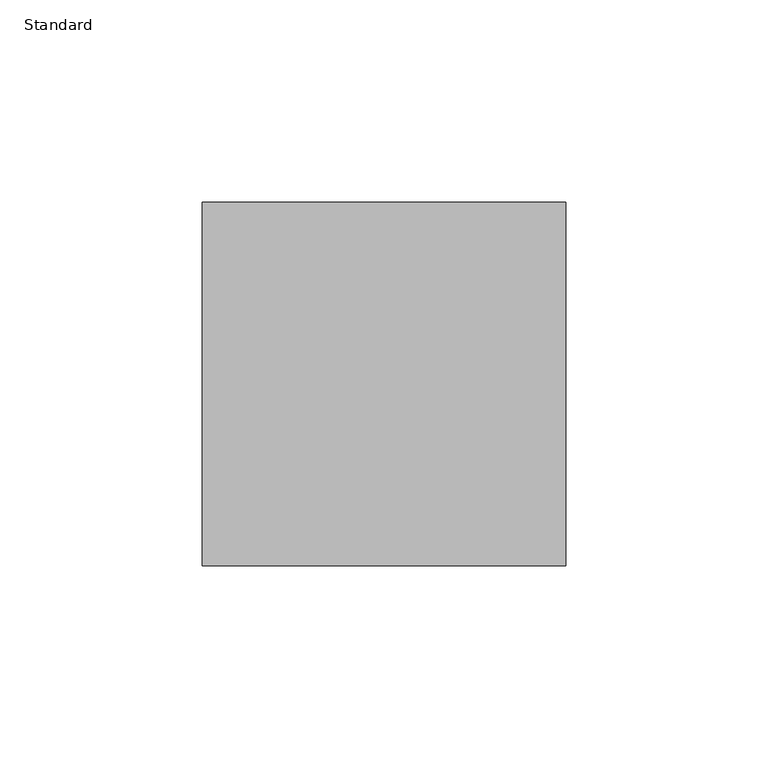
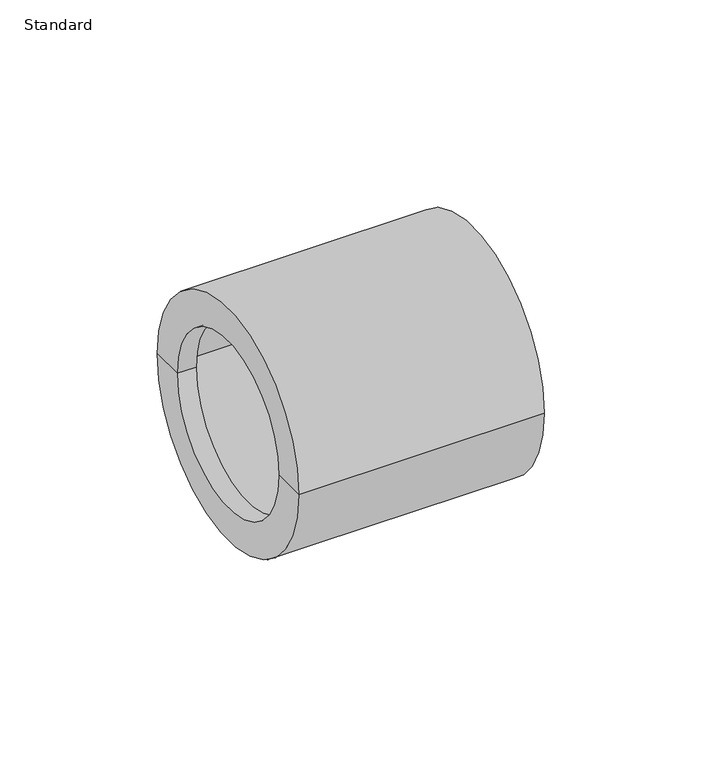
"""IFC4 building model written with IfcOpenShell, lengths in millimetres: pipe fitting geometry, Durapipe_PipeFitting_PVC_ReducingBush : Standard."""

from ifc_helpers import new_model, si_unit, frame, origin, place, context, project, spatial, polyline, circle_curve, source, transform, mapped, element, save
from ifc_brep_helpers import plane_surface, cylinder_surface, revolved_surface, advanced_brep


def standard_898c3797(model_context):
    return source(origin(), model_context, "Body", "AdvancedBrep", [
        advanced_brep(
        [(-7.0, -32.5, 0.0), (-7.0, 32.5, 0.0), (-7.0, 45.0, 0.0), (-7.0, -45.0, 0.0), (0.0, -32.5, 0.0), (0.0, 32.5, 0.0), (0.0, -37.5, 0.0), (0.0, 37.5, 0.0), (83.0, -37.5, 0.0), (83.0, 37.5, 0.0), (83.0, -45.0, 0.0), (83.0, 45.0, 0.0)],
        [
            (0, 1, circle_curve(frame((-7.0, 0.0, 0.0), z_axis=(1.0, 0.0, 0.0), x_axis=(0.0, 1.0, 0.0)), 32.5)),
            (1, 2),
            (2, 3, circle_curve(frame((-7.0, 0.0, 0.0), z_axis=(-1.0, 0.0, 0.0), x_axis=(0.0, 1.0, 0.0)), 45.0)),
            (3, 0),
            (1, 0, circle_curve(frame((-7.0, 0.0, 0.0), z_axis=(1.0, 0.0, 0.0), x_axis=(0.0, 1.0, 0.0)), 32.5)),
            (3, 2, circle_curve(frame((-7.0, 0.0, 0.0), z_axis=(-1.0, 0.0, 0.0), x_axis=(0.0, 1.0, 0.0)), 45.0)),
            (4, 5, circle_curve(frame((0.0, 0.0, 0.0), z_axis=(1.0, 0.0, 0.0), x_axis=(0.0, 1.0, 0.0)), 32.5)),
            (5, 1),
            (0, 4),
            (5, 4, circle_curve(frame((0.0, 0.0, 0.0), z_axis=(1.0, 0.0, 0.0), x_axis=(0.0, 1.0, 0.0)), 32.5)),
            (6, 7, circle_curve(frame((0.0, 0.0, 0.0), z_axis=(1.0, 0.0, 0.0), x_axis=(0.0, 1.0, 0.0)), 37.5)),
            (7, 5),
            (4, 6),
            (7, 6, circle_curve(frame((0.0, 0.0, 0.0), z_axis=(1.0, 0.0, 0.0), x_axis=(0.0, 1.0, 0.0)), 37.5)),
            (8, 9, circle_curve(frame((83.0, 0.0, 0.0), z_axis=(1.0, 0.0, 0.0), x_axis=(0.0, 1.0, 0.0)), 37.5)),
            (9, 7),
            (6, 8),
            (9, 8, circle_curve(frame((83.0, 0.0, 0.0), z_axis=(1.0, 0.0, 0.0), x_axis=(0.0, 1.0, 0.0)), 37.5)),
            (10, 11, circle_curve(frame((83.0, 0.0, 0.0), z_axis=(1.0, 0.0, 0.0), x_axis=(0.0, 1.0, 0.0)), 45.0)),
            (11, 9),
            (8, 10),
            (11, 10, circle_curve(frame((83.0, 0.0, 0.0), z_axis=(1.0, 0.0, 0.0), x_axis=(0.0, 1.0, 0.0)), 45.0)),
            (2, 11),
            (10, 3),
        ],
        [
            plane_surface(frame((-7.0, 0.0, 0.0), z_axis=(-1.0, 0.0, 0.0), x_axis=(0.0, 1.0, 0.0))),
            revolved_surface(polyline([(-7.0, 32.5, 0.0), (0.0, 32.5, 0.0)]), (2069.0, 0.0, 0.0), (-1.0, 0.0, 0.0)),
            plane_surface(frame((0.0, 0.0, 0.0), z_axis=(1.0, 0.0, 0.0), x_axis=(0.0, 1.0, 0.0))),
            revolved_surface(polyline([(0.0, 37.5, 0.0), (83.0, 37.5, 0.0)]), (2069.0, 0.0, 0.0), (-1.0, 0.0, 0.0)),
            plane_surface(frame((83.0, 0.0, 0.0), z_axis=(1.0, 0.0, 0.0), x_axis=(0.0, 1.0, 0.0))),
            cylinder_surface(frame((2069.0, 0.0, 0.0), z_axis=(-1.0, 0.0, 0.0), x_axis=(0.0, 1.0, 0.0)), 45.0),
        ],
        [
            (0, [[1, 2, 3, 4]]),
            (0, [[5, -4, 6, -2]]),
            (1, [[7, 8, -1, 9]]),
            (1, [[10, -9, -5, -8]]),
            (2, [[11, 12, -7, 13]]),
            (2, [[14, -13, -10, -12]]),
            (3, [[15, 16, -11, 17]]),
            (3, [[18, -17, -14, -16]]),
            (4, [[19, 20, -15, 21]]),
            (4, [[22, -21, -18, -20]]),
            (5, [[-3, 23, -19, 24]]),
            (5, [[-6, -24, -22, -23]]),
        ],
    ),
    ])


if __name__ == "__main__":
    model = new_model("IFC4")
    model_context = context("Model", 3, world=origin())
    ifc_project = project(units=[si_unit("LENGTHUNIT", "METRE", prefix="MILLI")], contexts=[model_context])
    site = spatial("IfcSite", under=ifc_project)
    building = spatial("IfcBuilding", under=site)
    placement = place(None, origin())
    standard_shape = standard_898c3797(model_context)
    element("IfcPipeFitting", 1, ObjectType="Durapipe_PipeFitting_PVC_ReducingBush : Standard", at=placement, inside=building, context=model_context, shape_type="MappedRepresentation", body=[
        mapped(standard_shape, transform((0.0, 0.0, 0.0), x_axis=(1.0, 0.0, 0.0), y_axis=(0.0, 1.0, 0.0), z_axis=(0.0, 0.0, 1.0))),
    ])
    save(model, "model.ifc")
